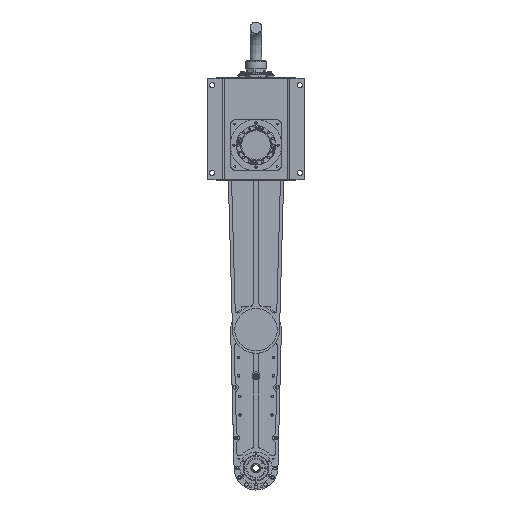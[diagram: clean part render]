
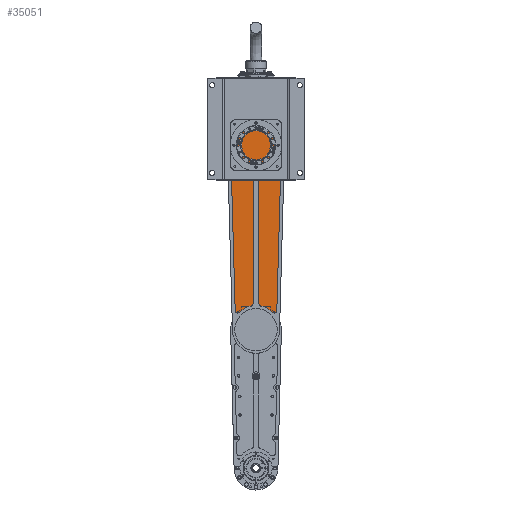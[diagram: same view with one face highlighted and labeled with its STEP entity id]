
A CAD part, front view. The second image highlights one B-rep face of the part: STEP entity #35051.
In plain terms, the highlighted planar face has unit normal (0, 1, 0).
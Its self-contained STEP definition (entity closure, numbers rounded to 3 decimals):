
#334 = DIRECTION ( 'NONE',  ( 0., 0., 1. ) ) ;
#1237 = AXIS2_PLACEMENT_3D ( 'NONE', #27819, #2734, #32011 ) ;
#1697 = EDGE_CURVE ( 'NONE', #20154, #20936, #7645, .T. ) ;
#2734 = DIRECTION ( 'NONE',  ( 0., 1., 0. ) ) ;
#2804 = CARTESIAN_POINT ( 'NONE',  ( -0.25, 224.9, -269.001 ) ) ;
#5121 = CARTESIAN_POINT ( 'NONE',  ( 0., 224.9, -372. ) ) ;
#5247 = LINE ( 'NONE', #44024, #38627 ) ;
#5561 = ORIENTED_EDGE ( 'NONE', *, *, #22188, .T. ) ;
#6022 = CARTESIAN_POINT ( 'NONE',  ( -50.981, 224.9, -326.403 ) ) ;
#6668 = DIRECTION ( 'NONE',  ( 0., 0., -1. ) ) ;
#7645 = CIRCLE ( 'NONE', #37179, 51. ) ;
#8243 = EDGE_CURVE ( 'NONE', #42457, #20154, #29959, .T. ) ;
#8471 = EDGE_CURVE ( 'NONE', #32493, #25436, #33225, .T. ) ;
#8719 = DIRECTION ( 'NONE',  ( 0., 1., 0. ) ) ;
#8851 = CARTESIAN_POINT ( 'NONE',  ( 0., 224.9, -325. ) ) ;
#8901 = CARTESIAN_POINT ( 'NONE',  ( 0., 224.9, -325. ) ) ;
#9584 = DIRECTION ( 'NONE',  ( -0.027, 0., 1. ) ) ;
#11589 = CARTESIAN_POINT ( 'NONE',  ( 0., 224.9, -269.001 ) ) ;
#11929 = CARTESIAN_POINT ( 'NONE',  ( 61.977, 224.9, 73.295 ) ) ;
#12064 = CARTESIAN_POINT ( 'NONE',  ( 0., 224.9, -325. ) ) ;
#12821 = EDGE_CURVE ( 'NONE', #20936, #48712, #48086, .T. ) ;
#13106 = DIRECTION ( 'NONE',  ( 0., 0., 1. ) ) ;
#13254 = ORIENTED_EDGE ( 'NONE', *, *, #12821, .T. ) ;
#14419 = AXIS2_PLACEMENT_3D ( 'NONE', #12064, #41278, #16310 ) ;
#15048 = PLANE ( 'NONE',  #23085 ) ;
#15085 = CIRCLE ( 'NONE', #1237, 62. ) ;
#16115 = EDGE_CURVE ( 'NONE', #25436, #24243, #51026, .T. ) ;
#16168 = DIRECTION ( 'NONE',  ( -0.027, 0., -1. ) ) ;
#16174 = CARTESIAN_POINT ( 'NONE',  ( -0.25, 224.9, -278.001 ) ) ;
#16310 = DIRECTION ( 'NONE',  ( 0., 0., 1. ) ) ;
#17004 = EDGE_LOOP ( 'NONE', ( #23709, #34371, #25775, #41161, #13254 ) ) ;
#17256 = VECTOR ( 'NONE', #334, 1000. ) ;
#17351 = ORIENTED_EDGE ( 'NONE', *, *, #37785, .T. ) ;
#17375 = EDGE_CURVE ( 'NONE', #52650, #32493, #5247, .T. ) ;
#19525 = CARTESIAN_POINT ( 'NONE',  ( 0.25, 224.9, -278.001 ) ) ;
#20154 = VERTEX_POINT ( 'NONE', #32285 ) ;
#20688 = ORIENTED_EDGE ( 'NONE', *, *, #8471, .T. ) ;
#20936 = VERTEX_POINT ( 'NONE', #6022 ) ;
#22188 = EDGE_CURVE ( 'NONE', #33854, #52650, #45842, .T. ) ;
#23085 = AXIS2_PLACEMENT_3D ( 'NONE', #48684, #23825, #52902 ) ;
#23273 = DIRECTION ( 'NONE',  ( 0., 0., -1. ) ) ;
#23709 = ORIENTED_EDGE ( 'NONE', *, *, #32992, .T. ) ;
#23825 = DIRECTION ( 'NONE',  ( 0., 1., 0. ) ) ;
#24243 = VERTEX_POINT ( 'NONE', #19525 ) ;
#24296 = CARTESIAN_POINT ( 'NONE',  ( 0., 224.9, -325. ) ) ;
#25436 = VERTEX_POINT ( 'NONE', #5121 ) ;
#25775 = ORIENTED_EDGE ( 'NONE', *, *, #8243, .T. ) ;
#27819 = CARTESIAN_POINT ( 'NONE',  ( 0., 224.9, 75. ) ) ;
#27989 = FACE_BOUND ( 'NONE', #38964, .T. ) ;
#28462 = DIRECTION ( 'NONE',  ( 0., 0., -1. ) ) ;
#29959 = CIRCLE ( 'NONE', #43908, 51. ) ;
#30434 = CARTESIAN_POINT ( 'NONE',  ( -50.981, 224.9, -326.403 ) ) ;
#30962 = EDGE_CURVE ( 'NONE', #37870, #42457, #40026, .T. ) ;
#31017 = CARTESIAN_POINT ( 'NONE',  ( 50.981, 224.9, -326.403 ) ) ;
#32011 = DIRECTION ( 'NONE',  ( 0., 0., -1. ) ) ;
#32285 = CARTESIAN_POINT ( 'NONE',  ( 0., 224.9, -376. ) ) ;
#32493 = VERTEX_POINT ( 'NONE', #16174 ) ;
#32992 = EDGE_CURVE ( 'NONE', #48712, #37870, #15085, .T. ) ;
#33225 = CIRCLE ( 'NONE', #37301, 47. ) ;
#33501 = VECTOR ( 'NONE', #49096, 1000. ) ;
#33854 = VERTEX_POINT ( 'NONE', #51644 ) ;
#34371 = ORIENTED_EDGE ( 'NONE', *, *, #30962, .T. ) ;
#35051 = ADVANCED_FACE ( 'NONE', ( #27989, #48738 ), #15048, .T. ) ;
#37063 = CARTESIAN_POINT ( 'NONE',  ( -61.977, 224.9, 73.295 ) ) ;
#37179 = AXIS2_PLACEMENT_3D ( 'NONE', #8901, #8719, #6668 ) ;
#37301 = AXIS2_PLACEMENT_3D ( 'NONE', #8851, #38086, #13106 ) ;
#37785 = EDGE_CURVE ( 'NONE', #24243, #33854, #39416, .T. ) ;
#37870 = VERTEX_POINT ( 'NONE', #42706 ) ;
#38086 = DIRECTION ( 'NONE',  ( 0., -1., 0. ) ) ;
#38627 = VECTOR ( 'NONE', #23273, 1000. ) ;
#38964 = EDGE_LOOP ( 'NONE', ( #5561, #51221, #20688, #46599, #17351 ) ) ;
#39416 = LINE ( 'NONE', #50146, #17256 ) ;
#40026 = LINE ( 'NONE', #11929, #48412 ) ;
#41161 = ORIENTED_EDGE ( 'NONE', *, *, #1697, .T. ) ;
#41278 = DIRECTION ( 'NONE',  ( 0., -1., 0. ) ) ;
#42457 = VERTEX_POINT ( 'NONE', #31017 ) ;
#42706 = CARTESIAN_POINT ( 'NONE',  ( 61.977, 224.9, 73.295 ) ) ;
#43908 = AXIS2_PLACEMENT_3D ( 'NONE', #24296, #53376, #28462 ) ;
#44024 = CARTESIAN_POINT ( 'NONE',  ( -0.25, 224.9, 75. ) ) ;
#45507 = VECTOR ( 'NONE', #9584, 1000. ) ;
#45842 = LINE ( 'NONE', #11589, #33501 ) ;
#46599 = ORIENTED_EDGE ( 'NONE', *, *, #16115, .T. ) ;
#48086 = LINE ( 'NONE', #30434, #45507 ) ;
#48412 = VECTOR ( 'NONE', #16168, 1000. ) ;
#48684 = CARTESIAN_POINT ( 'NONE',  ( 0., 224.9, 75. ) ) ;
#48712 = VERTEX_POINT ( 'NONE', #37063 ) ;
#48738 = FACE_OUTER_BOUND ( 'NONE', #17004, .T. ) ;
#49096 = DIRECTION ( 'NONE',  ( -1., 0., 0. ) ) ;
#50146 = CARTESIAN_POINT ( 'NONE',  ( 0.25, 224.9, 75. ) ) ;
#51026 = CIRCLE ( 'NONE', #14419, 47. ) ;
#51221 = ORIENTED_EDGE ( 'NONE', *, *, #17375, .T. ) ;
#51644 = CARTESIAN_POINT ( 'NONE',  ( 0.25, 224.9, -269.001 ) ) ;
#52650 = VERTEX_POINT ( 'NONE', #2804 ) ;
#52902 = DIRECTION ( 'NONE',  ( 0., 0., 1. ) ) ;
#53376 = DIRECTION ( 'NONE',  ( 0., 1., 0. ) ) ;
